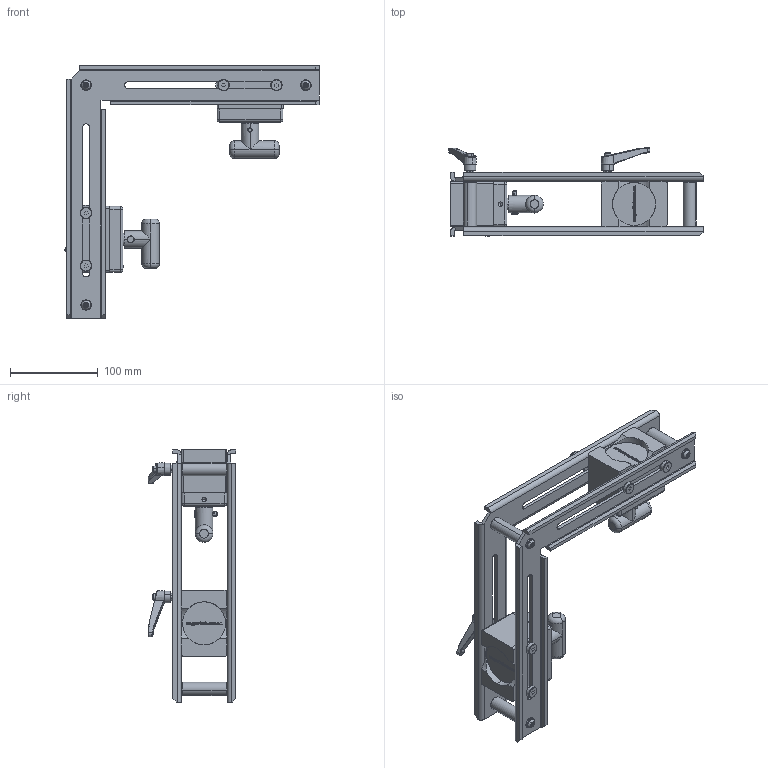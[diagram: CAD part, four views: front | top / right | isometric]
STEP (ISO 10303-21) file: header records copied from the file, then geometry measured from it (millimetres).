
FILE_DESCRIPTION (( 'STEP AP214' ), '1' );
FILE_NAME ('8100495_p.STEP', '2020-03-03T23:41:41', ( '' ), ( '' ), 'SwSTEP 2.0', 'SolidWorks 2018', '' );
FILE_SCHEMA (( 'AUTOMOTIVE_DESIGN' ));
Length unit declared in the file: millimetre
Products named in the file (1): 8100495_p
Bounding box: 288.98 x 100.08 x 287 mm (x, y, z)
Volume: 751223.5 mm3; surface area: 203023.1 mm2
Topology: 9 solids, 31 shells, 2730 faces, 6874 edges, 4276 vertices
Faces by surface type: plane 1550, cylinder 548, cone 548, torus 34, bspline 30, sphere 20
Entity records: 122614 total; most frequent: CARTESIAN_POINT 28483, ORIENTED_EDGE 13636, DIRECTION 12884, EDGE_CURVE 6818, VECTOR 4690, LINE 4690, VERTEX_POINT 4276, AXIS2_PLACEMENT_3D 4097
